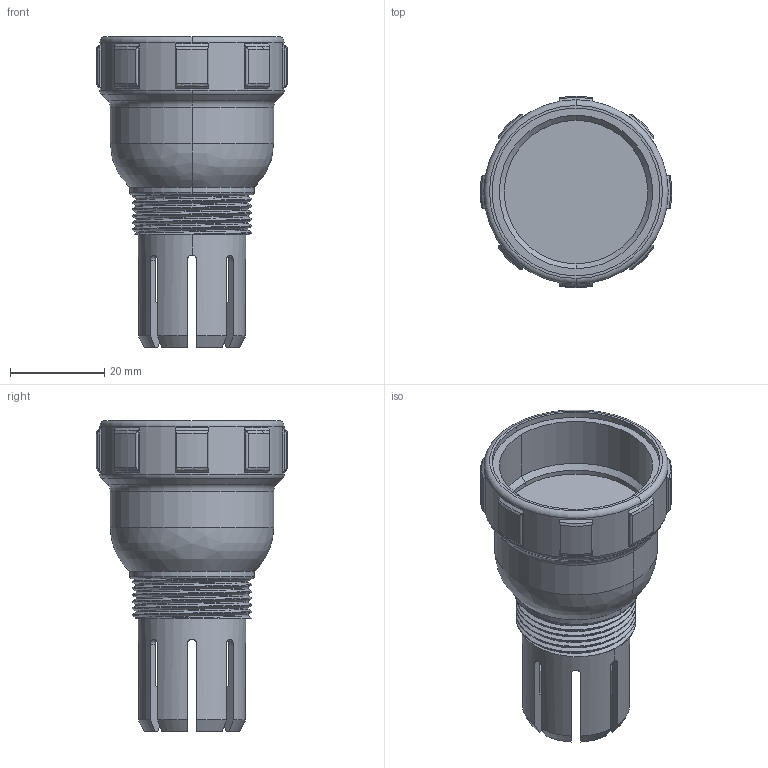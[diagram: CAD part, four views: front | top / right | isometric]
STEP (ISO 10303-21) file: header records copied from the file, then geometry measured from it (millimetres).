
FILE_DESCRIPTION((''),'2;1');
FILE_NAME('C-M902-2244','2014-01-01T',('workeradm'),('Tyco Electronics Ltd.'),'PRO/ENGINEER BY PARAMETRIC TECHNOLOGY CORPORATION, 2013050','PRO/ENGINEER BY PARAMETRIC TECHNOLOGY CORPORATION, 2013050','');
FILE_SCHEMA(('AUTOMOTIVE_DESIGN { 1 0 10303 214 1 1 1 1 }'));
Length unit declared in the file: millimetre
Products named in the file (1): C-M902-2244
Bounding box: 40.58 x 40.58 x 66.04 mm (x, y, z)
Volume: 28054 mm3; surface area: 11319.9 mm2
Topology: 1 solids, 1 shells, 193 faces, 519 edges, 338 vertices
Faces by surface type: cylinder 66, plane 46, cone 46, torus 24, bspline 11
Entity records: 11809 total; most frequent: CARTESIAN_POINT 7131, ORIENTED_EDGE 1038, DIRECTION 811, EDGE_CURVE 519, VERTEX_POINT 338, AXIS2_PLACEMENT_3D 330, B_SPLINE_CURVE_WITH_KNOTS 220, EDGE_LOOP 203
